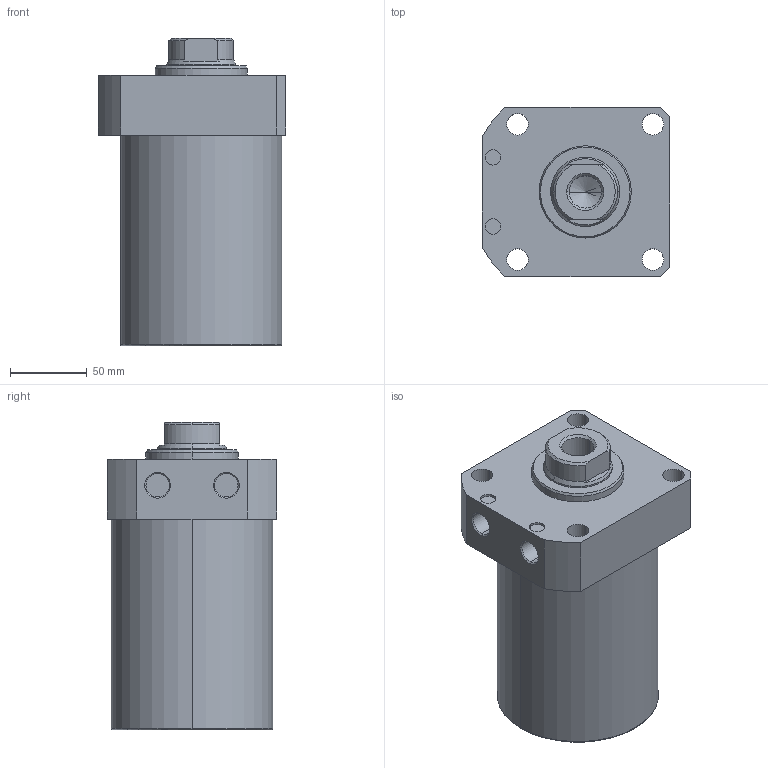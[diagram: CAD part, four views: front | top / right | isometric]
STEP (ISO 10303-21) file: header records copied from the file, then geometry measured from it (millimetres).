
FILE_DESCRIPTION (( 'STEP AP203' ), '1' );
FILE_NAME ('CLLR-105CA-090.STEP', '2019-12-18T07:07:53', ( '' ), ( '' ), 'SwSTEP 2.0', 'SolidWorks 2015', '' );
FILE_SCHEMA (( 'CONFIG_CONTROL_DESIGN' ));
Length unit declared in the file: millimetre
Products named in the file (1): CLLR-105CA-090
Bounding box: 122 x 110 x 200 mm (x, y, z)
Volume: 1683443.5 mm3; surface area: 103777.1 mm2
Topology: 1 solids, 1 shells, 65 faces, 153 edges, 96 vertices
Faces by surface type: cylinder 29, plane 19, cone 15, torus 2
Entity records: 1971 total; most frequent: DIRECTION 352, CARTESIAN_POINT 337, ORIENTED_EDGE 302, EDGE_CURVE 151, AXIS2_PLACEMENT_3D 143, VERTEX_POINT 96, EDGE_LOOP 81, CIRCLE 77
